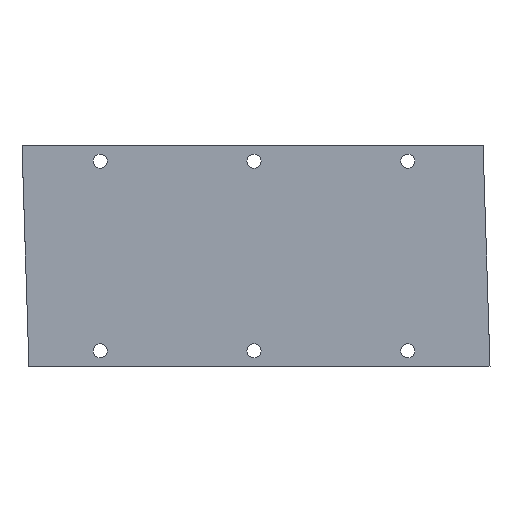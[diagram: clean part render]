
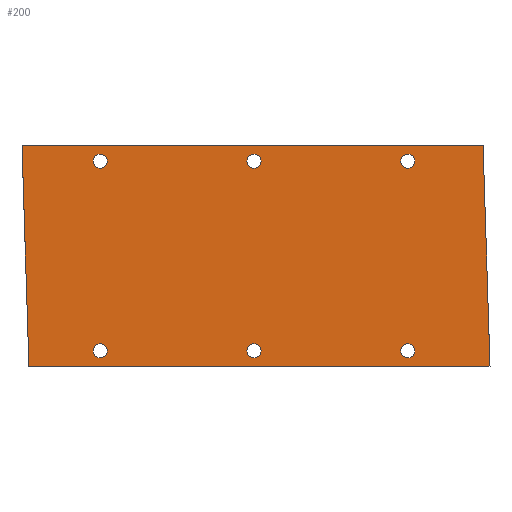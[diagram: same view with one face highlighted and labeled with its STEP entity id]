
A CAD part, front view. The second image highlights one B-rep face of the part: STEP entity #200.
In plain terms, the highlighted planar face has unit normal (0, -1, 0).
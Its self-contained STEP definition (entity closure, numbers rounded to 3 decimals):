
#186 = VERTEX_POINT ( 'NONE', #1426 ) ;
#187 = ORIENTED_EDGE ( 'NONE', *, *, #351, .T. ) ;
#188 = EDGE_CURVE ( 'NONE', #320, #330, #1364, .T. ) ;
#190 = ORIENTED_EDGE ( 'NONE', *, *, #188, .T. ) ;
#191 = ORIENTED_EDGE ( 'NONE', *, *, #386, .T. ) ;
#192 = EDGE_CURVE ( 'NONE', #366, #381, #1463, .T. ) ;
#193 = ORIENTED_EDGE ( 'NONE', *, *, #368, .T. ) ;
#194 = EDGE_LOOP ( 'NONE', ( #204, #198 ) ) ;
#195 = ORIENTED_EDGE ( 'NONE', *, *, #612, .T. ) ;
#196 = EDGE_CURVE ( 'NONE', #589, #548, #1453, .T. ) ;
#197 = EDGE_CURVE ( 'NONE', #613, #556, #1460, .T. ) ;
#198 = ORIENTED_EDGE ( 'NONE', *, *, #571, .T. ) ;
#199 = EDGE_LOOP ( 'NONE', ( #190, #191 ) ) ;
#200 = ADVANCED_FACE ( 'NONE', ( #1390, #1448, #1447, #1442, #1445, #1400, #1441 ), #1462, .F. ) ;
#201 = EDGE_LOOP ( 'NONE', ( #205, #193 ) ) ;
#203 = EDGE_LOOP ( 'NONE', ( #206, #207 ) ) ;
#204 = ORIENTED_EDGE ( 'NONE', *, *, #197, .T. ) ;
#205 = ORIENTED_EDGE ( 'NONE', *, *, #192, .T. ) ;
#206 = ORIENTED_EDGE ( 'NONE', *, *, #212, .T. ) ;
#207 = ORIENTED_EDGE ( 'NONE', *, *, #658, .T. ) ;
#210 = EDGE_LOOP ( 'NONE', ( #211, #195 ) ) ;
#211 = ORIENTED_EDGE ( 'NONE', *, *, #196, .T. ) ;
#212 = EDGE_CURVE ( 'NONE', #595, #594, #1433, .T. ) ;
#213 = EDGE_LOOP ( 'NONE', ( #187, #353 ) ) ;
#222 = VERTEX_POINT ( 'NONE', #1440 ) ;
#224 = EDGE_CURVE ( 'NONE', #186, #222, #1520, .T. ) ;
#264 = VERTEX_POINT ( 'NONE', #1708 ) ;
#270 = EDGE_CURVE ( 'NONE', #222, #264, #1735, .T. ) ;
#276 = EDGE_CURVE ( 'NONE', #291, #264, #1721, .T. ) ;
#291 = VERTEX_POINT ( 'NONE', #1770 ) ;
#298 = EDGE_CURVE ( 'NONE', #186, #291, #1773, .T. ) ;
#320 = VERTEX_POINT ( 'NONE', #1789 ) ;
#330 = VERTEX_POINT ( 'NONE', #1821 ) ;
#351 = EDGE_CURVE ( 'NONE', #652, #651, #1853, .T. ) ;
#353 = ORIENTED_EDGE ( 'NONE', *, *, #647, .T. ) ;
#354 = ORIENTED_EDGE ( 'NONE', *, *, #270, .F. ) ;
#355 = ORIENTED_EDGE ( 'NONE', *, *, #298, .T. ) ;
#357 = EDGE_LOOP ( 'NONE', ( #358, #355, #360, #354 ) ) ;
#358 = ORIENTED_EDGE ( 'NONE', *, *, #224, .F. ) ;
#360 = ORIENTED_EDGE ( 'NONE', *, *, #276, .T. ) ;
#366 = VERTEX_POINT ( 'NONE', #1855 ) ;
#368 = EDGE_CURVE ( 'NONE', #381, #366, #1834, .T. ) ;
#381 = VERTEX_POINT ( 'NONE', #1634 ) ;
#386 = EDGE_CURVE ( 'NONE', #330, #320, #1923, .T. ) ;
#548 = VERTEX_POINT ( 'NONE', #2127 ) ;
#556 = VERTEX_POINT ( 'NONE', #2170 ) ;
#571 = EDGE_CURVE ( 'NONE', #556, #613, #2201, .T. ) ;
#589 = VERTEX_POINT ( 'NONE', #2237 ) ;
#594 = VERTEX_POINT ( 'NONE', #2234 ) ;
#595 = VERTEX_POINT ( 'NONE', #2229 ) ;
#612 = EDGE_CURVE ( 'NONE', #548, #589, #2259, .T. ) ;
#613 = VERTEX_POINT ( 'NONE', #2249 ) ;
#647 = EDGE_CURVE ( 'NONE', #651, #652, #2311, .T. ) ;
#651 = VERTEX_POINT ( 'NONE', #2312 ) ;
#652 = VERTEX_POINT ( 'NONE', #2276 ) ;
#658 = EDGE_CURVE ( 'NONE', #594, #595, #2367, .T. ) ;
#1364 = CIRCLE ( 'NONE', #1432, 2.75 ) ;
#1390 = FACE_BOUND ( 'NONE', #203, .T. ) ;
#1396 = DIRECTION ( 'NONE',  ( 0., 0., 1. ) ) ;
#1397 = DIRECTION ( 'NONE',  ( 0., 1., 0. ) ) ;
#1400 = FACE_BOUND ( 'NONE', #213, .T. ) ;
#1401 = CARTESIAN_POINT ( 'NONE',  ( 825.219, 0., -3.991 ) ) ;
#1402 = CARTESIAN_POINT ( 'NONE',  ( 728.793, 0., -40.991 ) ) ;
#1426 = CARTESIAN_POINT ( 'NONE',  ( 794.649, 0., 2.009 ) ) ;
#1432 = AXIS2_PLACEMENT_3D ( 'NONE', #1401, #1397, #1396 ) ;
#1433 = CIRCLE ( 'NONE', #1496, 2.75 ) ;
#1434 = DIRECTION ( 'NONE',  ( 0., 0., 1. ) ) ;
#1435 = DIRECTION ( 'NONE',  ( 0., 1., 0. ) ) ;
#1440 = CARTESIAN_POINT ( 'NONE',  ( 974.649, 0., 2.009 ) ) ;
#1441 = FACE_OUTER_BOUND ( 'NONE', #357, .T. ) ;
#1442 = FACE_BOUND ( 'NONE', #201, .T. ) ;
#1443 = DIRECTION ( 'NONE',  ( 0., 0., 1. ) ) ;
#1444 = DIRECTION ( 'NONE',  ( 0., 1., 0. ) ) ;
#1445 = FACE_BOUND ( 'NONE', #199, .T. ) ;
#1446 = AXIS2_PLACEMENT_3D ( 'NONE', #1402, #1435, #1434 ) ;
#1447 = FACE_BOUND ( 'NONE', #194, .T. ) ;
#1448 = FACE_BOUND ( 'NONE', #210, .T. ) ;
#1449 = DIRECTION ( 'NONE',  ( 0., 0., 1. ) ) ;
#1450 = DIRECTION ( 'NONE',  ( 0., 1., 0. ) ) ;
#1451 = CARTESIAN_POINT ( 'NONE',  ( 945.219, 0., -77.991 ) ) ;
#1452 = AXIS2_PLACEMENT_3D ( 'NONE', #1451, #1450, #1449 ) ;
#1453 = CIRCLE ( 'NONE', #1452, 2.75 ) ;
#1455 = AXIS2_PLACEMENT_3D ( 'NONE', #1461, #1444, #1443 ) ;
#1456 = DIRECTION ( 'NONE',  ( 0., 0., 1. ) ) ;
#1457 = DIRECTION ( 'NONE',  ( 0., 1., 0. ) ) ;
#1458 = CARTESIAN_POINT ( 'NONE',  ( 885.219, 0., -77.991 ) ) ;
#1459 = AXIS2_PLACEMENT_3D ( 'NONE', #1458, #1457, #1456 ) ;
#1460 = CIRCLE ( 'NONE', #1455, 2.75 ) ;
#1461 = CARTESIAN_POINT ( 'NONE',  ( 885.219, 0., -3.991 ) ) ;
#1462 = PLANE ( 'NONE',  #1446 ) ;
#1463 = CIRCLE ( 'NONE', #1459, 2.75 ) ;
#1491 = CARTESIAN_POINT ( 'NONE',  ( 728.793, 0., 2.009 ) ) ;
#1493 = DIRECTION ( 'NONE',  ( 0., 0., 1. ) ) ;
#1494 = DIRECTION ( 'NONE',  ( 0., 1., 0. ) ) ;
#1495 = CARTESIAN_POINT ( 'NONE',  ( 945.219, 0., -3.991 ) ) ;
#1496 = AXIS2_PLACEMENT_3D ( 'NONE', #1495, #1494, #1493 ) ;
#1514 = DIRECTION ( 'NONE',  ( 1., 0., 0. ) ) ;
#1515 = VECTOR ( 'NONE', #1514, 1000. ) ;
#1520 = LINE ( 'NONE', #1491, #1515 ) ;
#1634 = CARTESIAN_POINT ( 'NONE',  ( 885.219, 0., -80.741 ) ) ;
#1708 = CARTESIAN_POINT ( 'NONE',  ( 977.351, 0., -83.991 ) ) ;
#1718 = DIRECTION ( 'NONE',  ( 1., 0., 0. ) ) ;
#1719 = VECTOR ( 'NONE', #1718, 1000. ) ;
#1720 = CARTESIAN_POINT ( 'NONE',  ( 728.793, 0., -83.991 ) ) ;
#1721 = LINE ( 'NONE', #1720, #1719 ) ;
#1732 = DIRECTION ( 'NONE',  ( 0.031, 0., -1. ) ) ;
#1733 = VECTOR ( 'NONE', #1732, 1000. ) ;
#1734 = CARTESIAN_POINT ( 'NONE',  ( 975.756, 0., -33.23 ) ) ;
#1735 = LINE ( 'NONE', #1734, #1733 ) ;
#1762 = DIRECTION ( 'NONE',  ( 0.031, 0., -1. ) ) ;
#1763 = VECTOR ( 'NONE', #1762, 1000. ) ;
#1770 = CARTESIAN_POINT ( 'NONE',  ( 797.351, 0., -83.991 ) ) ;
#1772 = CARTESIAN_POINT ( 'NONE',  ( 795.934, 0., -38.881 ) ) ;
#1773 = LINE ( 'NONE', #1772, #1763 ) ;
#1789 = CARTESIAN_POINT ( 'NONE',  ( 825.219, 0., -1.241 ) ) ;
#1821 = CARTESIAN_POINT ( 'NONE',  ( 825.219, 0., -6.741 ) ) ;
#1834 = CIRCLE ( 'NONE', #1846, 2.75 ) ;
#1846 = AXIS2_PLACEMENT_3D ( 'NONE', #1891, #1890, #1889 ) ;
#1849 = DIRECTION ( 'NONE',  ( 0., 0., 1. ) ) ;
#1850 = DIRECTION ( 'NONE',  ( 0., 1., 0. ) ) ;
#1851 = CARTESIAN_POINT ( 'NONE',  ( 825.219, 0., -77.991 ) ) ;
#1852 = AXIS2_PLACEMENT_3D ( 'NONE', #1851, #1850, #1849 ) ;
#1853 = CIRCLE ( 'NONE', #1852, 2.75 ) ;
#1855 = CARTESIAN_POINT ( 'NONE',  ( 885.219, 0., -75.241 ) ) ;
#1889 = DIRECTION ( 'NONE',  ( 0., 0., 1. ) ) ;
#1890 = DIRECTION ( 'NONE',  ( 0., 1., 0. ) ) ;
#1891 = CARTESIAN_POINT ( 'NONE',  ( 885.219, 0., -77.991 ) ) ;
#1919 = DIRECTION ( 'NONE',  ( 0., 0., 1. ) ) ;
#1920 = DIRECTION ( 'NONE',  ( 0., 1., 0. ) ) ;
#1921 = CARTESIAN_POINT ( 'NONE',  ( 825.219, 0., -3.991 ) ) ;
#1922 = AXIS2_PLACEMENT_3D ( 'NONE', #1921, #1920, #1919 ) ;
#1923 = CIRCLE ( 'NONE', #1922, 2.75 ) ;
#2127 = CARTESIAN_POINT ( 'NONE',  ( 945.219, 0., -80.741 ) ) ;
#2170 = CARTESIAN_POINT ( 'NONE',  ( 885.219, 0., -6.741 ) ) ;
#2194 = DIRECTION ( 'NONE',  ( 0., 0., 1. ) ) ;
#2195 = DIRECTION ( 'NONE',  ( 0., 1., 0. ) ) ;
#2196 = CARTESIAN_POINT ( 'NONE',  ( 885.219, 0., -3.991 ) ) ;
#2197 = AXIS2_PLACEMENT_3D ( 'NONE', #2196, #2195, #2194 ) ;
#2201 = CIRCLE ( 'NONE', #2197, 2.75 ) ;
#2229 = CARTESIAN_POINT ( 'NONE',  ( 945.219, 0., -1.241 ) ) ;
#2234 = CARTESIAN_POINT ( 'NONE',  ( 945.219, 0., -6.741 ) ) ;
#2237 = CARTESIAN_POINT ( 'NONE',  ( 945.219, 0., -75.241 ) ) ;
#2246 = DIRECTION ( 'NONE',  ( 0., 0., 1. ) ) ;
#2247 = DIRECTION ( 'NONE',  ( 0., 1., 0. ) ) ;
#2249 = CARTESIAN_POINT ( 'NONE',  ( 885.219, 0., -1.241 ) ) ;
#2254 = CARTESIAN_POINT ( 'NONE',  ( 945.219, 0., -77.991 ) ) ;
#2259 = CIRCLE ( 'NONE', #2272, 2.75 ) ;
#2272 = AXIS2_PLACEMENT_3D ( 'NONE', #2254, #2247, #2246 ) ;
#2276 = CARTESIAN_POINT ( 'NONE',  ( 825.219, 0., -75.241 ) ) ;
#2307 = DIRECTION ( 'NONE',  ( 0., 0., 1. ) ) ;
#2308 = DIRECTION ( 'NONE',  ( 0., 1., 0. ) ) ;
#2309 = CARTESIAN_POINT ( 'NONE',  ( 825.219, 0., -77.991 ) ) ;
#2310 = AXIS2_PLACEMENT_3D ( 'NONE', #2309, #2308, #2307 ) ;
#2311 = CIRCLE ( 'NONE', #2310, 2.75 ) ;
#2312 = CARTESIAN_POINT ( 'NONE',  ( 825.219, 0., -80.741 ) ) ;
#2313 = AXIS2_PLACEMENT_3D ( 'NONE', #2342, #2341, #2340 ) ;
#2340 = DIRECTION ( 'NONE',  ( 0., 0., 1. ) ) ;
#2341 = DIRECTION ( 'NONE',  ( 0., 1., 0. ) ) ;
#2342 = CARTESIAN_POINT ( 'NONE',  ( 945.219, 0., -3.991 ) ) ;
#2367 = CIRCLE ( 'NONE', #2313, 2.75 ) ;
